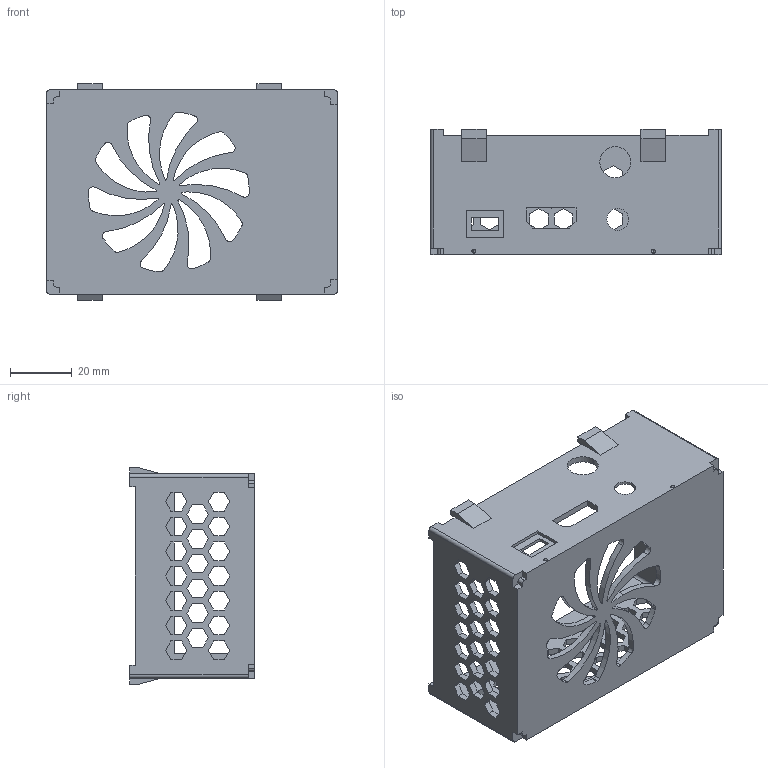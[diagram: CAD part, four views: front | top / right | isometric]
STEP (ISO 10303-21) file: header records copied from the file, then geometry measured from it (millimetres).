
FILE_DESCRIPTION (( 'STEP AP214' ), '1' );
FILE_NAME ('RPI3-Digi-case.STEP', '2019-09-17T19:16:51', ( '' ), ( '' ), 'SwSTEP 2.0', 'SolidWorks 2016', '' );
FILE_SCHEMA (( 'AUTOMOTIVE_DESIGN' ));
Length unit declared in the file: millimetre
Products named in the file (1): RPI3-Digi-case
Bounding box: 94 x 40.4 x 70 mm (x, y, z)
Volume: 29983.5 mm3; surface area: 31914.2 mm2
Topology: 1 solids, 1 shells, 760 faces, 2199 edges, 1458 vertices
Faces by surface type: plane 556, cylinder 118, bspline 70, sphere 16
Entity records: 28075 total; most frequent: CARTESIAN_POINT 8168, ORIENTED_EDGE 4334, DIRECTION 3679, EDGE_CURVE 2167, LINE 1757, VECTOR 1757, VERTEX_POINT 1442, AXIS2_PLACEMENT_3D 961
